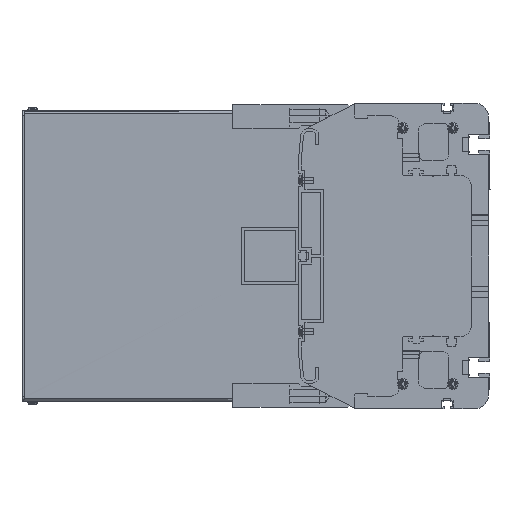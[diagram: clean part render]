
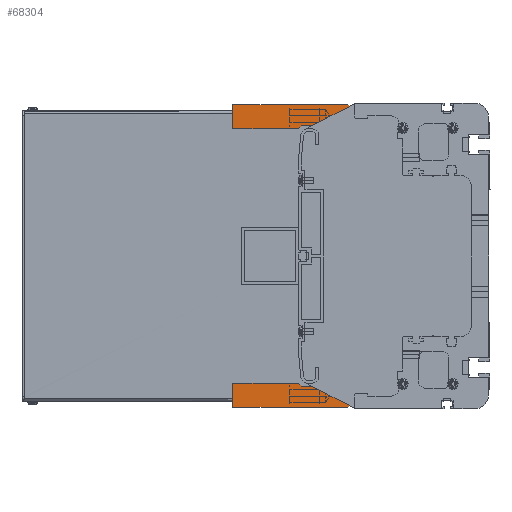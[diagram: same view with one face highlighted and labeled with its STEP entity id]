
A CAD part, left-side view. The second image highlights one B-rep face of the part: STEP entity #68304.
In plain terms, the highlighted planar face has unit normal (-1, 0, 0).
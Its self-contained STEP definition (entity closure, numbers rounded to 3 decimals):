
#63828=DIRECTION('',(0.,0.,1.));
#63829=VECTOR('',#63828,134.);
#63830=CARTESIAN_POINT('',(-434.5,111.,-67.));
#63831=LINE('',#63830,#63829);
#64093=DIRECTION('',(0.,1.,0.));
#64094=VECTOR('',#64093,46.);
#64095=CARTESIAN_POINT('',(-434.5,134.,-89.));
#64096=LINE('',#64095,#64094);
#64318=DIRECTION('',(0.,0.,1.));
#64319=VECTOR('',#64318,13.);
#64320=CARTESIAN_POINT('',(-434.5,114.5,-86.));
#64321=LINE('',#64320,#64319);
#64454=DIRECTION('',(0.,1.,0.));
#64455=VECTOR('',#64454,79.);
#64456=CARTESIAN_POINT('',(-434.5,101.,-106.));
#64457=LINE('',#64456,#64455);
#64458=DIRECTION('',(0.,-0.707,-0.707));
#64459=VECTOR('',#64458,2.828);
#64460=CARTESIAN_POINT('',(-434.5,134.,-89.));
#64461=LINE('',#64460,#64459);
#64462=CARTESIAN_POINT('',(-434.5,119.5,-86.));
#64463=DIRECTION('',(-1.,0.,0.));
#64464=DIRECTION('',(0.,0.,-1.));
#64465=AXIS2_PLACEMENT_3D('',#64462,#64463,#64464);
#64467=CARTESIAN_POINT('',(-434.5,119.5,86.));
#64468=DIRECTION('',(-1.,0.,0.));
#64469=DIRECTION('',(0.,-1.,0.));
#64470=AXIS2_PLACEMENT_3D('',#64467,#64468,#64469);
#64472=DIRECTION('',(0.,0.707,-0.707));
#64473=VECTOR('',#64472,2.828);
#64474=CARTESIAN_POINT('',(-434.5,132.,91.));
#64475=LINE('',#64474,#64473);
#64476=DIRECTION('',(0.,0.,-1.));
#64477=VECTOR('',#64476,17.);
#64478=CARTESIAN_POINT('',(-434.5,180.,106.));
#64479=LINE('',#64478,#64477);
#64480=DIRECTION('',(0.,-1.,0.));
#64481=VECTOR('',#64480,79.);
#64482=CARTESIAN_POINT('',(-434.5,180.,106.));
#64483=LINE('',#64482,#64481);
#64484=CARTESIAN_POINT('',(-434.5,101.,102.));
#64485=DIRECTION('',(1.,0.,0.));
#64486=DIRECTION('',(0.,0.,1.));
#64487=AXIS2_PLACEMENT_3D('',#64484,#64485,#64486);
#64489=CARTESIAN_POINT('',(-434.5,101.,-102.));
#64490=DIRECTION('',(1.,0.,0.));
#64491=DIRECTION('',(0.,-1.,0.));
#64492=AXIS2_PLACEMENT_3D('',#64489,#64490,#64491);
#64554=DIRECTION('',(0.,0.,1.));
#64555=VECTOR('',#64554,17.);
#64556=CARTESIAN_POINT('',(-434.5,180.,-106.));
#64557=LINE('',#64556,#64555);
#64750=DIRECTION('',(0.,0.,-1.));
#64751=VECTOR('',#64750,204.);
#64752=CARTESIAN_POINT('',(-434.5,97.,102.));
#64753=LINE('',#64752,#64751);
#65129=DIRECTION('',(0.,-1.,0.));
#65130=VECTOR('',#65129,46.);
#65131=CARTESIAN_POINT('',(-434.5,180.,89.));
#65132=LINE('',#65131,#65130);
#65180=DIRECTION('',(0.,1.,0.));
#65181=VECTOR('',#65180,12.5);
#65182=CARTESIAN_POINT('',(-434.5,119.5,91.));
#65183=LINE('',#65182,#65181);
#65250=DIRECTION('',(0.,0.,1.));
#65251=VECTOR('',#65250,13.);
#65252=CARTESIAN_POINT('',(-434.5,114.5,73.));
#65253=LINE('',#65252,#65251);
#65566=DIRECTION('',(0.,1.,0.));
#65567=VECTOR('',#65566,6.5);
#65568=CARTESIAN_POINT('',(-434.5,108.,73.));
#65569=LINE('',#65568,#65567);
#65574=DIRECTION('',(0.,0.,1.));
#65575=VECTOR('',#65574,6.);
#65576=CARTESIAN_POINT('',(-434.5,108.,67.));
#65577=LINE('',#65576,#65575);
#65582=DIRECTION('',(0.,-1.,0.));
#65583=VECTOR('',#65582,3.);
#65584=CARTESIAN_POINT('',(-434.5,111.,67.));
#65585=LINE('',#65584,#65583);
#66437=DIRECTION('',(0.,-1.,0.));
#66438=VECTOR('',#66437,12.5);
#66439=CARTESIAN_POINT('',(-434.5,132.,-91.));
#66440=LINE('',#66439,#66438);
#66441=DIRECTION('',(0.,-1.,0.));
#66442=VECTOR('',#66441,6.5);
#66443=CARTESIAN_POINT('',(-434.5,114.5,-73.));
#66444=LINE('',#66443,#66442);
#66453=DIRECTION('',(0.,0.,1.));
#66454=VECTOR('',#66453,6.);
#66455=CARTESIAN_POINT('',(-434.5,108.,-73.));
#66456=LINE('',#66455,#66454);
#66465=DIRECTION('',(0.,1.,0.));
#66466=VECTOR('',#66465,3.);
#66467=CARTESIAN_POINT('',(-434.5,108.,-67.));
#66468=LINE('',#66467,#66466);
#66753=CARTESIAN_POINT('',(-434.5,180.,106.));
#66755=VERTEX_POINT('',#66753);
#66759=CARTESIAN_POINT('',(-434.5,180.,89.));
#66760=VERTEX_POINT('',#66759);
#66774=CARTESIAN_POINT('',(-434.5,180.,-106.));
#66776=VERTEX_POINT('',#66774);
#66777=CARTESIAN_POINT('',(-434.5,180.,-89.));
#66778=VERTEX_POINT('',#66777);
#66793=CARTESIAN_POINT('',(-434.5,97.,102.));
#66794=CARTESIAN_POINT('',(-434.5,97.,-102.));
#66795=VERTEX_POINT('',#66793);
#66796=VERTEX_POINT('',#66794);
#66797=CARTESIAN_POINT('',(-434.5,101.,106.));
#66798=VERTEX_POINT('',#66797);
#66799=CARTESIAN_POINT('',(-434.5,132.,91.));
#66800=CARTESIAN_POINT('',(-434.5,134.,89.));
#66801=VERTEX_POINT('',#66799);
#66802=VERTEX_POINT('',#66800);
#66803=CARTESIAN_POINT('',(-434.5,119.5,91.));
#66804=VERTEX_POINT('',#66803);
#66805=CARTESIAN_POINT('',(-434.5,114.5,86.));
#66806=VERTEX_POINT('',#66805);
#66807=CARTESIAN_POINT('',(-434.5,114.5,73.));
#66808=VERTEX_POINT('',#66807);
#66809=CARTESIAN_POINT('',(-434.5,108.,73.));
#66810=VERTEX_POINT('',#66809);
#66811=CARTESIAN_POINT('',(-434.5,108.,67.));
#66812=VERTEX_POINT('',#66811);
#66813=CARTESIAN_POINT('',(-434.5,111.,67.));
#66814=VERTEX_POINT('',#66813);
#66815=CARTESIAN_POINT('',(-434.5,111.,-67.));
#66816=VERTEX_POINT('',#66815);
#66817=CARTESIAN_POINT('',(-434.5,108.,-67.));
#66818=VERTEX_POINT('',#66817);
#66819=CARTESIAN_POINT('',(-434.5,108.,-73.));
#66820=VERTEX_POINT('',#66819);
#66821=CARTESIAN_POINT('',(-434.5,114.5,-73.));
#66822=VERTEX_POINT('',#66821);
#66823=CARTESIAN_POINT('',(-434.5,114.5,-86.));
#66824=VERTEX_POINT('',#66823);
#66825=CARTESIAN_POINT('',(-434.5,119.5,-91.));
#66826=VERTEX_POINT('',#66825);
#66827=CARTESIAN_POINT('',(-434.5,132.,-91.));
#66828=VERTEX_POINT('',#66827);
#66829=CARTESIAN_POINT('',(-434.5,134.,-89.));
#66830=VERTEX_POINT('',#66829);
#66831=CARTESIAN_POINT('',(-434.5,101.,-106.));
#66832=VERTEX_POINT('',#66831);
#68253=CARTESIAN_POINT('',(-434.5,118.5,0.));
#68254=DIRECTION('',(1.,0.,0.));
#68255=DIRECTION('',(0.,0.,-1.));
#68256=AXIS2_PLACEMENT_3D('',#68253,#68254,#68255);
#68257=PLANE('',#68256);
#68259=ORIENTED_EDGE('',*,*,#68258,.T.);
#68261=ORIENTED_EDGE('',*,*,#68260,.T.);
#68262=ORIENTED_EDGE('',*,*,#67859,.F.);
#68264=ORIENTED_EDGE('',*,*,#68263,.T.);
#68266=ORIENTED_EDGE('',*,*,#68265,.T.);
#68267=ORIENTED_EDGE('',*,*,#68244,.T.);
#68268=ORIENTED_EDGE('',*,*,#68142,.T.);
#68270=ORIENTED_EDGE('',*,*,#68269,.T.);
#68272=ORIENTED_EDGE('',*,*,#68271,.T.);
#68274=ORIENTED_EDGE('',*,*,#68273,.T.);
#68275=ORIENTED_EDGE('',*,*,#67631,.T.);
#68277=ORIENTED_EDGE('',*,*,#68276,.T.);
#68279=ORIENTED_EDGE('',*,*,#68278,.T.);
#68281=ORIENTED_EDGE('',*,*,#68280,.T.);
#68283=ORIENTED_EDGE('',*,*,#68282,.T.);
#68285=ORIENTED_EDGE('',*,*,#68284,.T.);
#68287=ORIENTED_EDGE('',*,*,#68286,.T.);
#68289=ORIENTED_EDGE('',*,*,#68288,.T.);
#68291=ORIENTED_EDGE('',*,*,#68290,.F.);
#68293=ORIENTED_EDGE('',*,*,#68292,.F.);
#68295=ORIENTED_EDGE('',*,*,#68294,.T.);
#68297=ORIENTED_EDGE('',*,*,#68296,.T.);
#68299=ORIENTED_EDGE('',*,*,#68298,.T.);
#68301=ORIENTED_EDGE('',*,*,#68300,.T.);
#68302=EDGE_LOOP('',(#68259,#68261,#68262,#68264,#68266,#68267,#68268,#68270,
#68272,#68274,#68275,#68277,#68279,#68281,#68283,#68285,#68287,#68289,#68291,
#68293,#68295,#68297,#68299,#68301));
#68303=FACE_OUTER_BOUND('',#68302,.F.);
#68304=ADVANCED_FACE('',(#68303),#68257,.F.);
#64466=CIRCLE('',#64465,5.);
#64471=CIRCLE('',#64470,5.);
#64488=CIRCLE('',#64487,4.);
#64493=CIRCLE('',#64492,4.);
#67631=EDGE_CURVE('',#66816,#66814,#63831,.T.);
#67859=EDGE_CURVE('',#66830,#66778,#64096,.T.);
#68142=EDGE_CURVE('',#66824,#66822,#64321,.T.);
#68244=EDGE_CURVE('',#66826,#66824,#64466,.T.);
#68258=EDGE_CURVE('',#66832,#66776,#64457,.T.);
#68260=EDGE_CURVE('',#66776,#66778,#64557,.T.);
#68263=EDGE_CURVE('',#66830,#66828,#64461,.T.);
#68265=EDGE_CURVE('',#66828,#66826,#66440,.T.);
#68269=EDGE_CURVE('',#66822,#66820,#66444,.T.);
#68271=EDGE_CURVE('',#66820,#66818,#66456,.T.);
#68273=EDGE_CURVE('',#66818,#66816,#66468,.T.);
#68276=EDGE_CURVE('',#66814,#66812,#65585,.T.);
#68278=EDGE_CURVE('',#66812,#66810,#65577,.T.);
#68280=EDGE_CURVE('',#66810,#66808,#65569,.T.);
#68282=EDGE_CURVE('',#66808,#66806,#65253,.T.);
#68284=EDGE_CURVE('',#66806,#66804,#64471,.T.);
#68286=EDGE_CURVE('',#66804,#66801,#65183,.T.);
#68288=EDGE_CURVE('',#66801,#66802,#64475,.T.);
#68290=EDGE_CURVE('',#66760,#66802,#65132,.T.);
#68292=EDGE_CURVE('',#66755,#66760,#64479,.T.);
#68294=EDGE_CURVE('',#66755,#66798,#64483,.T.);
#68296=EDGE_CURVE('',#66798,#66795,#64488,.T.);
#68298=EDGE_CURVE('',#66795,#66796,#64753,.T.);
#68300=EDGE_CURVE('',#66796,#66832,#64493,.T.);
